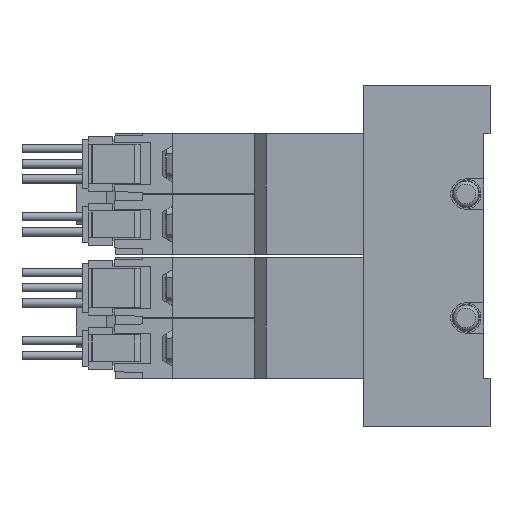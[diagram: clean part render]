
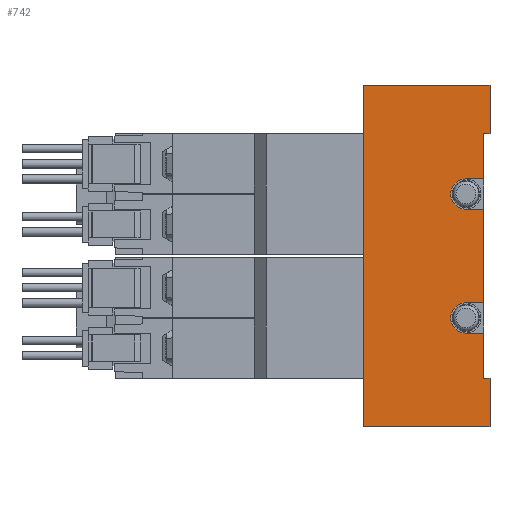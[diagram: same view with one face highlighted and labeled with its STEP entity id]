
A CAD part, left-side view. The second image highlights one B-rep face of the part: STEP entity #742.
In plain terms, the highlighted planar face has unit normal (-1, 0, 0) as drawn and (1, 0, 0) by its records, which use the part's own axes.
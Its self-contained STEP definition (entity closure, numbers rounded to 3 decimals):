
#742=ADVANCED_FACE('',(#1602),#1603,.F.);
#1602=FACE_OUTER_BOUND('',#2498,.T.);
#1603=PLANE('',#2499);
#2498=EDGE_LOOP('',(#5614,#5615,#5616,#5617,#5618,#5619,#5620,#5621,#5622,#5623,#5624,#5625,#5626,#5627,#5628,#5629));
#2499=AXIS2_PLACEMENT_3D('',#5630,#5631,#5632);
#5614=ORIENTED_EDGE('',*,*,#6711,.T.);
#5615=ORIENTED_EDGE('',*,*,#6772,.T.);
#5616=ORIENTED_EDGE('',*,*,#6773,.F.);
#5617=ORIENTED_EDGE('',*,*,#6774,.F.);
#5618=ORIENTED_EDGE('',*,*,#6745,.T.);
#5619=ORIENTED_EDGE('',*,*,#6775,.T.);
#5620=ORIENTED_EDGE('',*,*,#6729,.T.);
#5621=ORIENTED_EDGE('',*,*,#6706,.F.);
#5622=ORIENTED_EDGE('',*,*,#6759,.F.);
#5623=ORIENTED_EDGE('',*,*,#6761,.F.);
#5624=ORIENTED_EDGE('',*,*,#6726,.T.);
#5625=ORIENTED_EDGE('',*,*,#6776,.F.);
#5626=ORIENTED_EDGE('',*,*,#6733,.F.);
#5627=ORIENTED_EDGE('',*,*,#6777,.F.);
#5628=ORIENTED_EDGE('',*,*,#6722,.T.);
#5629=ORIENTED_EDGE('',*,*,#6778,.T.);
#5630=CARTESIAN_POINT('',(17.5,1.0,28.25));
#5631=DIRECTION('',(-1.0,0.0,0.0));
#5632=DIRECTION('',(0.0,0.0,1.0));
#6706=EDGE_CURVE('',#8342,#8343,#8344,.T.);
#6711=EDGE_CURVE('',#8352,#8353,#8354,.T.);
#6722=EDGE_CURVE('',#8375,#8372,#8376,.T.);
#6726=EDGE_CURVE('',#8383,#8381,#8384,.T.);
#6729=EDGE_CURVE('',#8388,#8343,#8389,.T.);
#6733=EDGE_CURVE('',#8393,#8395,#8396,.T.);
#6745=EDGE_CURVE('',#8414,#8415,#8416,.T.);
#6759=EDGE_CURVE('',#8439,#8342,#8441,.T.);
#6761=EDGE_CURVE('',#8383,#8439,#8444,.T.);
#6772=EDGE_CURVE('',#8353,#8463,#8464,.T.);
#6773=EDGE_CURVE('',#8465,#8463,#8466,.T.);
#6774=EDGE_CURVE('',#8414,#8465,#8467,.T.);
#6775=EDGE_CURVE('',#8415,#8388,#8468,.T.);
#6776=EDGE_CURVE('',#8395,#8381,#8469,.T.);
#6777=EDGE_CURVE('',#8375,#8393,#8470,.T.);
#6778=EDGE_CURVE('',#8372,#8352,#8471,.T.);
#8342=VERTEX_POINT('',#11042);
#8343=VERTEX_POINT('',#11043);
#8344=LINE('',#11044,#11045);
#8352=VERTEX_POINT('',#11057);
#8353=VERTEX_POINT('',#11058);
#8354=LINE('',#11059,#11060);
#8372=VERTEX_POINT('',#11081);
#8375=VERTEX_POINT('',#11085);
#8376=LINE('',#11086,#11087);
#8381=VERTEX_POINT('',#11094);
#8383=VERTEX_POINT('',#11097);
#8384=LINE('',#11098,#11099);
#8388=VERTEX_POINT('',#11105);
#8389=LINE('',#11106,#11107);
#8393=VERTEX_POINT('',#11113);
#8395=VERTEX_POINT('',#11116);
#8396=CIRCLE('',#11117,2.5);
#8414=VERTEX_POINT('',#11136);
#8415=VERTEX_POINT('',#11137);
#8416=LINE('',#11138,#11139);
#8439=VERTEX_POINT('',#11208);
#8441=CIRCLE('',#11211,2.5);
#8444=LINE('',#11214,#11215);
#8463=VERTEX_POINT('',#11243);
#8464=LINE('',#11244,#11245);
#8465=VERTEX_POINT('',#11246);
#8466=LINE('',#11247,#11248);
#8467=LINE('',#11249,#11250);
#8468=LINE('',#11251,#11252);
#8469=LINE('',#11253,#11254);
#8470=LINE('',#11255,#11256);
#8471=LINE('',#11257,#11258);
#11042=CARTESIAN_POINT('',(17.5,4.0,12.75));
#11043=CARTESIAN_POINT('',(17.5,1.0,12.75));
#11044=CARTESIAN_POINT('',(17.5,1.0,12.75));
#11045=VECTOR('',#12429,1.0);
#11057=CARTESIAN_POINT('',(17.5,0.0,-20.25));
#11058=CARTESIAN_POINT('',(17.5,0.0,-28.25));
#11059=CARTESIAN_POINT('',(17.5,0.0,-20.25));
#11060=VECTOR('',#12434,1.0);
#11081=CARTESIAN_POINT('',(17.5,1.0,-20.25));
#11085=CARTESIAN_POINT('',(17.5,1.0,-12.75));
#11086=CARTESIAN_POINT('',(17.5,1.0,28.25));
#11087=VECTOR('',#12457,1.0);
#11094=CARTESIAN_POINT('',(17.5,1.0,-7.75));
#11097=CARTESIAN_POINT('',(17.5,1.0,7.75));
#11098=CARTESIAN_POINT('',(17.5,1.0,28.25));
#11099=VECTOR('',#12461,1.0);
#11105=CARTESIAN_POINT('',(17.5,1.0,20.25));
#11106=CARTESIAN_POINT('',(17.5,1.0,28.25));
#11107=VECTOR('',#12464,1.0);
#11113=CARTESIAN_POINT('',(17.5,4.0,-12.75));
#11116=CARTESIAN_POINT('',(17.5,4.0,-7.75));
#11117=AXIS2_PLACEMENT_3D('',#12468,#12469,#12470);
#11136=CARTESIAN_POINT('',(17.5,0.0,28.25));
#11137=CARTESIAN_POINT('',(17.5,0.0,20.25));
#11138=CARTESIAN_POINT('',(17.5,0.0,28.25));
#11139=VECTOR('',#12496,1.0);
#11208=CARTESIAN_POINT('',(17.5,4.0,7.75));
#11211=AXIS2_PLACEMENT_3D('',#12527,#12528,#12529);
#11214=CARTESIAN_POINT('',(17.5,1.0,7.75));
#11215=VECTOR('',#12533,1.0);
#11243=CARTESIAN_POINT('',(17.5,21.0,-28.25));
#11244=CARTESIAN_POINT('',(17.5,1.0,-28.25));
#11245=VECTOR('',#12546,1.0);
#11246=CARTESIAN_POINT('',(17.5,21.0,28.25));
#11247=CARTESIAN_POINT('',(17.5,21.0,28.25));
#11248=VECTOR('',#12547,1.0);
#11249=CARTESIAN_POINT('',(17.5,1.0,28.25));
#11250=VECTOR('',#12548,1.0);
#11251=CARTESIAN_POINT('',(17.5,0.0,20.25));
#11252=VECTOR('',#12549,1.0);
#11253=CARTESIAN_POINT('',(17.5,1.0,-7.75));
#11254=VECTOR('',#12550,1.0);
#11255=CARTESIAN_POINT('',(17.5,1.0,-12.75));
#11256=VECTOR('',#12551,1.0);
#11257=CARTESIAN_POINT('',(17.5,4.0,-20.25));
#11258=VECTOR('',#12552,1.0);
#12429=DIRECTION('',(0.0,-1.0,0.0));
#12434=DIRECTION('',(0.0,0.0,-1.0));
#12457=DIRECTION('',(0.0,0.0,-1.0));
#12461=DIRECTION('',(0.0,0.0,-1.0));
#12464=DIRECTION('',(0.0,0.0,-1.0));
#12468=CARTESIAN_POINT('',(17.5,4.0,-10.25));
#12469=DIRECTION('',(1.0,0.0,-0.0));
#12470=DIRECTION('',(0.0,0.0,1.0));
#12496=DIRECTION('',(0.0,0.0,-1.0));
#12527=CARTESIAN_POINT('',(17.5,4.0,10.25));
#12528=DIRECTION('',(1.0,0.0,-0.0));
#12529=DIRECTION('',(0.0,0.0,1.0));
#12533=DIRECTION('',(0.0,1.0,0.0));
#12546=DIRECTION('',(0.0,1.0,0.0));
#12547=DIRECTION('',(0.0,0.0,-1.0));
#12548=DIRECTION('',(0.0,1.0,0.0));
#12549=DIRECTION('',(0.0,1.0,0.0));
#12550=DIRECTION('',(0.0,-1.0,0.0));
#12551=DIRECTION('',(0.0,1.0,0.0));
#12552=DIRECTION('',(0.0,-1.0,0.0));
